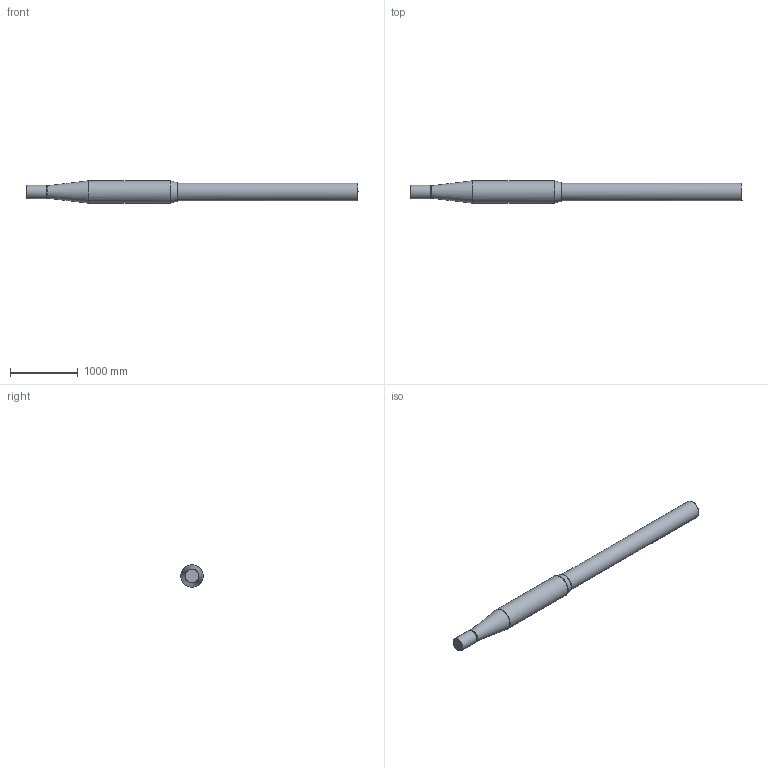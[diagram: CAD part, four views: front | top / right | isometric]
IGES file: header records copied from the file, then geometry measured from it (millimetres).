
Global section: file name: Z:\prj6.0\JFM_2018\outgoing\2022_scanned_data_JFM_0015_w_horn\2022 scans\model in tunnel at 0 deg mod\14x22_sting_in_tunnel_0deg_mod.igs; native system: NX V10.0; preprocessor: SIEMENS PLM Software NX 10.0; date: 20220822.141041; units: millimetre
Bounding box: 4890.8 x 328.8 x 328.76 mm (x, y, z)
Surface area: 4340919.3 mm2 (no closed solid volume)
Topology: 0 solids, 0 shells, 15 faces, 99 edges, 88 vertices
Faces by surface type: bspline 15
